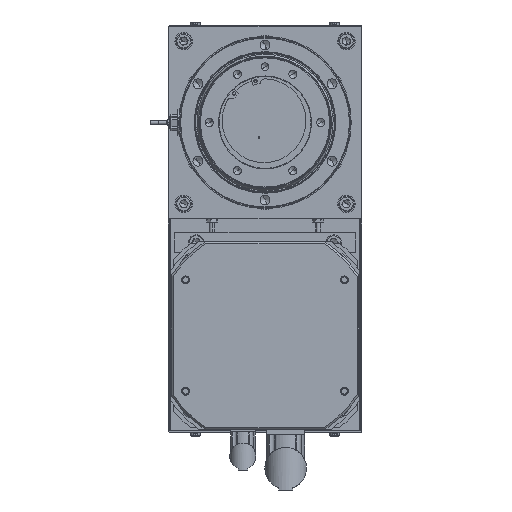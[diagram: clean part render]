
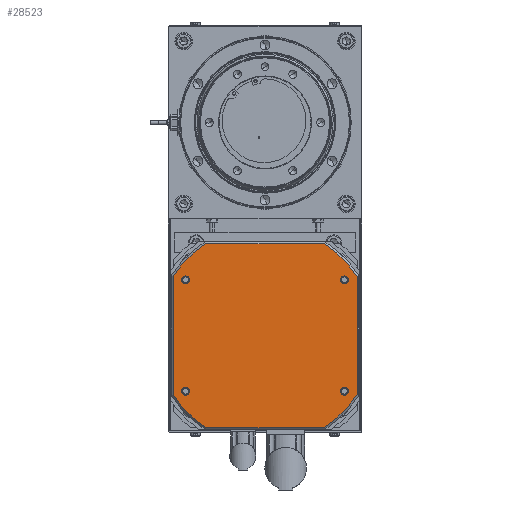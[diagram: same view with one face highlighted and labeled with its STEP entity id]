
A CAD part, front view. The second image highlights one B-rep face of the part: STEP entity #28523.
In plain terms, the highlighted planar face has unit normal (0, -1, 0).
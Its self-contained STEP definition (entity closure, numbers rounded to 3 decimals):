
#186 = AXIS2_PLACEMENT_3D ( 'NONE', #2204, #34830, #5836 ) ;
#1206 = CIRCLE ( 'NONE', #8607, 116.5 ) ;
#1555 = CARTESIAN_POINT ( 'NONE',  ( 194.75, 353.5, -380.908 ) ) ;
#2050 = VERTEX_POINT ( 'NONE', #17156 ) ;
#2158 = DIRECTION ( 'NONE',  ( 0., -1., 0. ) ) ;
#2204 = CARTESIAN_POINT ( 'NONE',  ( 181.75, 353.5, -262.25 ) ) ;
#2254 = VERTEX_POINT ( 'NONE', #19012 ) ;
#2436 = CARTESIAN_POINT ( 'NONE',  ( 97.207, 353.5, -317.207 ) ) ;
#3171 = AXIS2_PLACEMENT_3D ( 'NONE', #38942, #22940, #19519 ) ;
#3252 = CARTESIAN_POINT ( 'NONE',  ( 181.75, 353.5, -377.25 ) ) ;
#3424 = ORIENTED_EDGE ( 'NONE', *, *, #20116, .T. ) ;
#3509 = DIRECTION ( 'NONE',  ( 0., 0., 1. ) ) ;
#3510 = CIRCLE ( 'NONE', #11318, 4. ) ;
#3742 = LINE ( 'NONE', #38198, #7266 ) ;
#4587 = CARTESIAN_POINT ( 'NONE',  ( 194.75, 353.5, -317.207 ) ) ;
#5010 = AXIS2_PLACEMENT_3D ( 'NONE', #3252, #12699, #3509 ) ;
#5250 = CARTESIAN_POINT ( 'NONE',  ( 181.75, 353.5, -258.25 ) ) ;
#5362 = VERTEX_POINT ( 'NONE', #9776 ) ;
#5507 = DIRECTION ( 'NONE',  ( 0., 0., 1. ) ) ;
#5552 = FACE_BOUND ( 'NONE', #18384, .T. ) ;
#5781 = AXIS2_PLACEMENT_3D ( 'NONE', #20520, #10853, #33560 ) ;
#5836 = DIRECTION ( 'NONE',  ( 0., 0., 1. ) ) ;
#6402 = VERTEX_POINT ( 'NONE', #9398 ) ;
#6432 = CARTESIAN_POINT ( 'NONE',  ( 17.75, 353.5, -377.25 ) ) ;
#6551 = ORIENTED_EDGE ( 'NONE', *, *, #15336, .F. ) ;
#6593 = AXIS2_PLACEMENT_3D ( 'NONE', #6432, #12983, #28927 ) ;
#6595 = CARTESIAN_POINT ( 'NONE',  ( 97.207, 353.5, -224.75 ) ) ;
#6747 = DIRECTION ( 'NONE',  ( 0., -1., 0. ) ) ;
#6827 = DIRECTION ( 'NONE',  ( 0., 0., 1. ) ) ;
#7234 = ORIENTED_EDGE ( 'NONE', *, *, #36427, .T. ) ;
#7266 = VECTOR ( 'NONE', #25481, 1000. ) ;
#7882 = DIRECTION ( 'NONE',  ( 0., 0., 1. ) ) ;
#7971 = ORIENTED_EDGE ( 'NONE', *, *, #13422, .T. ) ;
#8506 = DIRECTION ( 'NONE',  ( 0., 1., 0. ) ) ;
#8607 = AXIS2_PLACEMENT_3D ( 'NONE', #18996, #6747, #25083 ) ;
#8883 = DIRECTION ( 'NONE',  ( 0., -1., 0. ) ) ;
#9398 = CARTESIAN_POINT ( 'NONE',  ( 160.908, 353.5, -224.75 ) ) ;
#9651 = CARTESIAN_POINT ( 'NONE',  ( 102.293, 353.5, -322.293 ) ) ;
#9776 = CARTESIAN_POINT ( 'NONE',  ( 4.75, 353.5, -380.908 ) ) ;
#10679 = EDGE_CURVE ( 'NONE', #37688, #2254, #13201, .T. ) ;
#10782 = VERTEX_POINT ( 'NONE', #26739 ) ;
#10853 = DIRECTION ( 'NONE',  ( 0., -1., 0. ) ) ;
#10969 = ORIENTED_EDGE ( 'NONE', *, *, #14453, .T. ) ;
#11167 = CARTESIAN_POINT ( 'NONE',  ( 181.75, 353.5, -381.25 ) ) ;
#11318 = AXIS2_PLACEMENT_3D ( 'NONE', #27723, #37197, #15033 ) ;
#11903 = VERTEX_POINT ( 'NONE', #19577 ) ;
#12170 = CIRCLE ( 'NONE', #3171, 4. ) ;
#12215 = VECTOR ( 'NONE', #23674, 1000. ) ;
#12565 = CARTESIAN_POINT ( 'NONE',  ( 102.293, 353.5, -317.207 ) ) ;
#12699 = DIRECTION ( 'NONE',  ( 0., -1., 0. ) ) ;
#12983 = DIRECTION ( 'NONE',  ( 0., -1., 0. ) ) ;
#13201 = CIRCLE ( 'NONE', #22170, 4. ) ;
#13422 = EDGE_CURVE ( 'NONE', #5362, #35724, #20655, .T. ) ;
#14276 = LINE ( 'NONE', #6595, #12215 ) ;
#14453 = EDGE_CURVE ( 'NONE', #35724, #34936, #3742, .T. ) ;
#14603 = EDGE_LOOP ( 'NONE', ( #7971, #10969, #29719, #3424, #7234, #26658, #21054, #25316 ) ) ;
#14726 = EDGE_CURVE ( 'NONE', #11903, #2050, #29686, .T. ) ;
#15033 = DIRECTION ( 'NONE',  ( 0., 0., 1. ) ) ;
#15336 = EDGE_CURVE ( 'NONE', #2254, #37688, #28062, .T. ) ;
#15804 = AXIS2_PLACEMENT_3D ( 'NONE', #12565, #8883, #18822 ) ;
#16021 = LINE ( 'NONE', #17938, #23215 ) ;
#16523 = EDGE_CURVE ( 'NONE', #31398, #25056, #12170, .T. ) ;
#16685 = VECTOR ( 'NONE', #7882, 1000. ) ;
#17156 = CARTESIAN_POINT ( 'NONE',  ( 17.75, 353.5, -266.25 ) ) ;
#17583 = EDGE_LOOP ( 'NONE', ( #27505, #25108 ) ) ;
#17938 = CARTESIAN_POINT ( 'NONE',  ( 4.75, 353.5, -317.207 ) ) ;
#17955 = AXIS2_PLACEMENT_3D ( 'NONE', #9651, #32394, #19449 ) ;
#18384 = EDGE_LOOP ( 'NONE', ( #6551, #25972 ) ) ;
#18822 = DIRECTION ( 'NONE',  ( 0., 0., 1. ) ) ;
#18996 = CARTESIAN_POINT ( 'NONE',  ( 97.207, 353.5, -322.293 ) ) ;
#19012 = CARTESIAN_POINT ( 'NONE',  ( 17.75, 353.5, -373.25 ) ) ;
#19120 = EDGE_CURVE ( 'NONE', #10782, #23783, #41685, .T. ) ;
#19449 = DIRECTION ( 'NONE',  ( 0., 0., 1. ) ) ;
#19512 = VERTEX_POINT ( 'NONE', #37350 ) ;
#19519 = DIRECTION ( 'NONE',  ( 0., 0., 1. ) ) ;
#19577 = CARTESIAN_POINT ( 'NONE',  ( 17.75, 353.5, -258.25 ) ) ;
#19815 = AXIS2_PLACEMENT_3D ( 'NONE', #30072, #19968, #29812 ) ;
#19838 = FACE_BOUND ( 'NONE', #17583, .T. ) ;
#19968 = DIRECTION ( 'NONE',  ( 0., -1., 0. ) ) ;
#20097 = CIRCLE ( 'NONE', #5010, 4. ) ;
#20116 = EDGE_CURVE ( 'NONE', #26634, #19512, #20273, .T. ) ;
#20273 = LINE ( 'NONE', #4587, #16685 ) ;
#20520 = CARTESIAN_POINT ( 'NONE',  ( 17.75, 353.5, -262.25 ) ) ;
#20655 = CIRCLE ( 'NONE', #15804, 116.5 ) ;
#21054 = ORIENTED_EDGE ( 'NONE', *, *, #19120, .T. ) ;
#21258 = ORIENTED_EDGE ( 'NONE', *, *, #37546, .F. ) ;
#22044 = CARTESIAN_POINT ( 'NONE',  ( 17.75, 353.5, -381.25 ) ) ;
#22170 = AXIS2_PLACEMENT_3D ( 'NONE', #35942, #23186, #6827 ) ;
#22542 = CARTESIAN_POINT ( 'NONE',  ( 181.75, 353.5, -373.25 ) ) ;
#22940 = DIRECTION ( 'NONE',  ( 0., -1., 0. ) ) ;
#23186 = DIRECTION ( 'NONE',  ( 0., -1., 0. ) ) ;
#23215 = VECTOR ( 'NONE', #31010, 1000. ) ;
#23674 = DIRECTION ( 'NONE',  ( -1., 0., 0. ) ) ;
#23783 = VERTEX_POINT ( 'NONE', #39094 ) ;
#23958 = FACE_OUTER_BOUND ( 'NONE', #14603, .T. ) ;
#23987 = EDGE_CURVE ( 'NONE', #37720, #35442, #31672, .T. ) ;
#25041 = CARTESIAN_POINT ( 'NONE',  ( 38.592, 353.5, -414.75 ) ) ;
#25056 = VERTEX_POINT ( 'NONE', #11167 ) ;
#25083 = DIRECTION ( 'NONE',  ( 0., 0., 1. ) ) ;
#25108 = ORIENTED_EDGE ( 'NONE', *, *, #41654, .F. ) ;
#25316 = ORIENTED_EDGE ( 'NONE', *, *, #30717, .T. ) ;
#25481 = DIRECTION ( 'NONE',  ( 1., 0., 0. ) ) ;
#25972 = ORIENTED_EDGE ( 'NONE', *, *, #10679, .F. ) ;
#26634 = VERTEX_POINT ( 'NONE', #1555 ) ;
#26658 = ORIENTED_EDGE ( 'NONE', *, *, #37449, .T. ) ;
#26739 = CARTESIAN_POINT ( 'NONE',  ( 38.592, 353.5, -224.75 ) ) ;
#27505 = ORIENTED_EDGE ( 'NONE', *, *, #14726, .F. ) ;
#27723 = CARTESIAN_POINT ( 'NONE',  ( 17.75, 353.5, -262.25 ) ) ;
#28062 = CIRCLE ( 'NONE', #6593, 4. ) ;
#28135 = DIRECTION ( 'NONE',  ( 0., 0., 1. ) ) ;
#28275 = CARTESIAN_POINT ( 'NONE',  ( 97.207, 353.5, -317.207 ) ) ;
#28523 = ADVANCED_FACE ( 'NONE', ( #23958, #31526, #19838, #35041, #5552 ), #31378, .F. ) ;
#28927 = DIRECTION ( 'NONE',  ( 0., 0., 1. ) ) ;
#29021 = CARTESIAN_POINT ( 'NONE',  ( 160.908, 353.5, -414.75 ) ) ;
#29263 = AXIS2_PLACEMENT_3D ( 'NONE', #28275, #8506, #28135 ) ;
#29686 = CIRCLE ( 'NONE', #5781, 4. ) ;
#29719 = ORIENTED_EDGE ( 'NONE', *, *, #41727, .T. ) ;
#29812 = DIRECTION ( 'NONE',  ( 0., 0., 1. ) ) ;
#30072 = CARTESIAN_POINT ( 'NONE',  ( 181.75, 353.5, -262.25 ) ) ;
#30555 = CIRCLE ( 'NONE', #19815, 4. ) ;
#30717 = EDGE_CURVE ( 'NONE', #23783, #5362, #16021, .T. ) ;
#30896 = EDGE_LOOP ( 'NONE', ( #21258, #41713 ) ) ;
#31010 = DIRECTION ( 'NONE',  ( 0., 0., -1. ) ) ;
#31378 = PLANE ( 'NONE',  #29263 ) ;
#31398 = VERTEX_POINT ( 'NONE', #22542 ) ;
#31526 = FACE_BOUND ( 'NONE', #31852, .T. ) ;
#31672 = CIRCLE ( 'NONE', #186, 4. ) ;
#31852 = EDGE_LOOP ( 'NONE', ( #36649, #37035 ) ) ;
#32394 = DIRECTION ( 'NONE',  ( 0., -1., 0. ) ) ;
#33560 = DIRECTION ( 'NONE',  ( 0., 0., 1. ) ) ;
#34830 = DIRECTION ( 'NONE',  ( 0., -1., 0. ) ) ;
#34936 = VERTEX_POINT ( 'NONE', #29021 ) ;
#35041 = FACE_BOUND ( 'NONE', #30896, .T. ) ;
#35442 = VERTEX_POINT ( 'NONE', #5250 ) ;
#35724 = VERTEX_POINT ( 'NONE', #25041 ) ;
#35942 = CARTESIAN_POINT ( 'NONE',  ( 17.75, 353.5, -377.25 ) ) ;
#36427 = EDGE_CURVE ( 'NONE', #19512, #6402, #1206, .T. ) ;
#36649 = ORIENTED_EDGE ( 'NONE', *, *, #16523, .F. ) ;
#37004 = CIRCLE ( 'NONE', #41154, 116.5 ) ;
#37035 = ORIENTED_EDGE ( 'NONE', *, *, #40999, .F. ) ;
#37197 = DIRECTION ( 'NONE',  ( 0., -1., 0. ) ) ;
#37350 = CARTESIAN_POINT ( 'NONE',  ( 194.75, 353.5, -258.592 ) ) ;
#37449 = EDGE_CURVE ( 'NONE', #6402, #10782, #14276, .T. ) ;
#37546 = EDGE_CURVE ( 'NONE', #35442, #37720, #30555, .T. ) ;
#37688 = VERTEX_POINT ( 'NONE', #22044 ) ;
#37720 = VERTEX_POINT ( 'NONE', #38888 ) ;
#38198 = CARTESIAN_POINT ( 'NONE',  ( 97.207, 353.5, -414.75 ) ) ;
#38888 = CARTESIAN_POINT ( 'NONE',  ( 181.75, 353.5, -266.25 ) ) ;
#38942 = CARTESIAN_POINT ( 'NONE',  ( 181.75, 353.5, -377.25 ) ) ;
#39094 = CARTESIAN_POINT ( 'NONE',  ( 4.75, 353.5, -258.592 ) ) ;
#40999 = EDGE_CURVE ( 'NONE', #25056, #31398, #20097, .T. ) ;
#41154 = AXIS2_PLACEMENT_3D ( 'NONE', #2436, #2158, #5507 ) ;
#41654 = EDGE_CURVE ( 'NONE', #2050, #11903, #3510, .T. ) ;
#41685 = CIRCLE ( 'NONE', #17955, 116.5 ) ;
#41713 = ORIENTED_EDGE ( 'NONE', *, *, #23987, .F. ) ;
#41727 = EDGE_CURVE ( 'NONE', #34936, #26634, #37004, .T. ) ;
